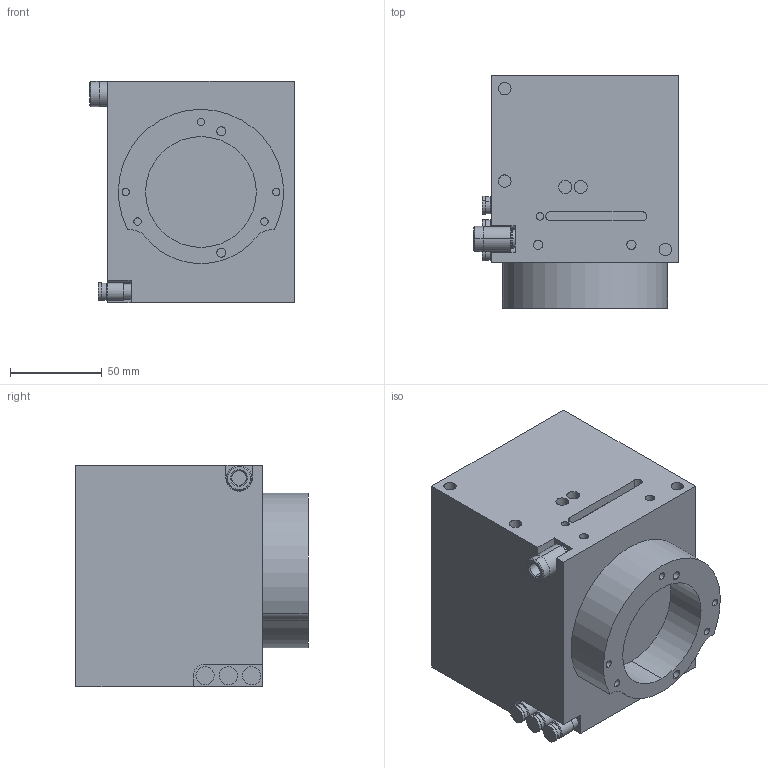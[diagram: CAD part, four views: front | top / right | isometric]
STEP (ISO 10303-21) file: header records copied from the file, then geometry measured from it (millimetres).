
FILE_DESCRIPTION (( 'STEP AP214' ), '1' );
FILE_NAME ('BSM-50-F.STEP', '2017-08-24T19:58:49', ( '' ), ( '' ), 'SwSTEP 2.0', 'SolidWorks 2017', '' );
FILE_SCHEMA (( 'AUTOMOTIVE_DESIGN' ));
Length unit declared in the file: inch
Products named in the file (1): BSM-50-F
Bounding box: 111.38 x 126.49 x 120.65 mm (x, y, z)
Volume: 1136617 mm3; surface area: 108803.1 mm2
Topology: 1 solids, 4 shells, 242 faces, 502 edges, 330 vertices
Faces by surface type: cylinder 140, plane 90, cone 10, torus 2
Entity records: 6606 total; most frequent: DIRECTION 1272, CARTESIAN_POINT 1122, ORIENTED_EDGE 1004, AXIS2_PLACEMENT_3D 534, EDGE_CURVE 502, VERTEX_POINT 330, EDGE_LOOP 304, CIRCLE 291
